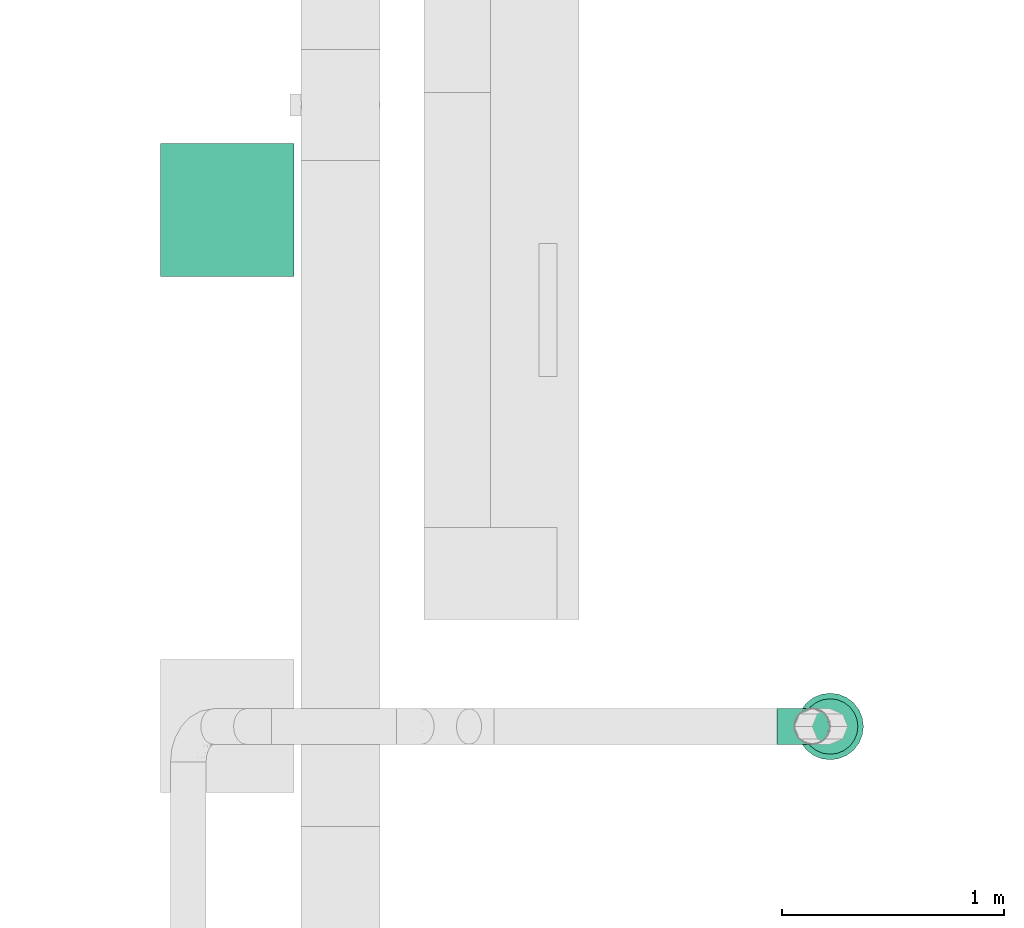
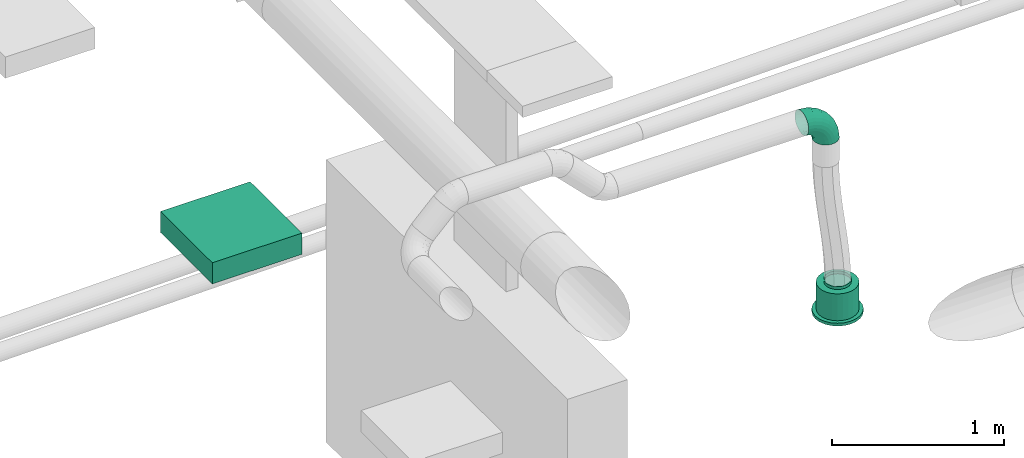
# One storey, part 78 of 374: 1 distribution element, 1 flow fitting, 1 flow terminal.
"""IFC2X3 building model written with IfcOpenShell, lengths in metres."""

import ifcopenshell
import ifcopenshell.guid

model = None  # the IFC model being written
_history = None  # IfcOwnerHistory: only IFC2X3 demands one
_inside = {}  # id of a spatial element -> (the spatial element, [elements in it])
_under = {}  # id of a project, library or spatial element -> (it, [spatial elements below it])
_declared = {}  # id of a project -> (the project, [libraries it declares])
_typed = {}  # id of a type object -> (the type object, [elements of that type])
_made_of = {}  # id of a material, layer set ... -> (it, [elements and type objects made of it])


def new_model(schema):
    """Start an empty IFC model of exactly this schema.

    Asked for "IFC4X3", IfcOpenShell would pick the latest addendum, in which some entities
    have other attributes; the version numbers below select the first issue.
    IFC2X3 requires an IfcOwnerHistory on every rooted entity: one is made here for all.
    """
    global model, _history
    if schema == "IFC4X3":
        model = ifcopenshell.file(schema_version=(4, 3, 0, 0))
    else:
        model = ifcopenshell.file(schema=schema)
    _inside.clear()
    _under.clear()
    _declared.clear()
    _typed.clear()
    _made_of.clear()
    _history = None
    if model.schema == "IFC2X3":
        org = make("IfcOrganization", Name="unknown")
        user = make(
            "IfcPersonAndOrganization",
            ThePerson=make("IfcPerson", FamilyName="unknown"),
            TheOrganization=org,
        )
        app = make(
            "IfcApplication",
            ApplicationDeveloper=org,
            Version="unknown",
            ApplicationFullName="unknown",
            ApplicationIdentifier="unknown",
        )
        _history = make(
            "IfcOwnerHistory",
            OwningUser=user,
            OwningApplication=app,
            ChangeAction="ADDED",
            CreationDate=0,
        )
    return model


def make(cls, **values):
    """One entity of the class cls with the attributes given. An attribute that is None is left unset."""
    return model.create_entity(
        cls, **{name: value for name, value in values.items() if value is not None}
    )


def rooted(cls, **values):
    """An entity with a GlobalId (a new one), such as an element, a storey or a relation."""
    return make(cls, GlobalId=ifcopenshell.guid.new(), OwnerHistory=_history, **values)


def si_unit(unit_type, name, prefix=None):
    """IfcSIUnit, for example si_unit("LENGTHUNIT", "METRE", prefix="MILLI")."""
    return make("IfcSIUnit", UnitType=unit_type, Prefix=prefix, Name=name)


def assignment(units):
    """IfcUnitAssignment: the units of a project."""
    return None if units is None else make("IfcUnitAssignment", Units=units)


def point(xyz):
    """IfcCartesianPoint."""
    return None if xyz is None else make("IfcCartesianPoint", Coordinates=xyz)


def direction(xyz):
    """IfcDirection."""
    return None if xyz is None else make("IfcDirection", DirectionRatios=xyz)


def frame(location, z_axis=None, x_axis=None):
    """IfcAxis2Placement3D, a coordinate frame: its origin and axes. An axis left out is left unset."""
    return make(
        "IfcAxis2Placement3D",
        Location=point(location),
        Axis=direction(z_axis),
        RefDirection=direction(x_axis),
    )


def frame_2d(location, x_axis=None):
    """IfcAxis2Placement2D, a coordinate frame in the plane: its origin and x axis."""
    return make(
        "IfcAxis2Placement2D", Location=point(location), RefDirection=direction(x_axis)
    )


def origin():
    """The frame at (0, 0, 0) with its axes left unset."""
    return frame((0.0, 0.0, 0.0))


def place(relative_to, where):
    """IfcLocalPlacement: puts the frame where relative to a parent placement (None: the world)."""
    return make(
        "IfcLocalPlacement", PlacementRelTo=relative_to, RelativePlacement=where
    )


def context(
    kind, dimensions, precision=None, world=None, true_north=None, identifier=None
):
    """IfcGeometricRepresentationContext, for example the 3D "Model" context."""
    return make(
        "IfcGeometricRepresentationContext",
        ContextIdentifier=identifier,
        ContextType=kind,
        CoordinateSpaceDimension=dimensions,
        Precision=precision,
        WorldCoordinateSystem=world,
        TrueNorth=true_north,
    )


def subcontext(parent, identifier, kind, view, scale=None):
    """IfcGeometricRepresentationSubContext, for example "Body" below "Model"."""
    return make(
        "IfcGeometricRepresentationSubContext",
        ContextIdentifier=identifier,
        ContextType=kind,
        ParentContext=parent,
        TargetScale=scale,
        TargetView=view,
    )


def project(units=None, contexts=None):
    """IfcProject with its units and contexts."""
    return rooted(
        "IfcProject",
        Name="project",
        RepresentationContexts=contexts,
        UnitsInContext=assignment(units),
    )


def spatial(cls, under=None, at=None, **own):
    """A site, building, storey or space (cls), placed at a placement, below another one or the project."""
    s = rooted(cls, ObjectPlacement=at, **own)
    if under is not None:
        _under.setdefault(under.id(), (under, []))[1].append(s)
    return s


def profile(cls, at=None, kind="AREA", **sizes):
    """A parametric profile (cls). Its sizes go by their IFC names, for example OverallWidth=200.0."""
    return make(cls, ProfileType=kind, Position=at, **sizes)


def rectangle(**sizes):
    """IfcRectangleProfileDef."""
    return profile("IfcRectangleProfileDef", **sizes)


def extrude(swept, where, along, depth):
    """IfcExtrudedAreaSolid: the profile swept, set in the frame where, extruded along a direction by depth."""
    return make(
        "IfcExtrudedAreaSolid",
        SweptArea=swept,
        Position=where,
        ExtrudedDirection=direction(along),
        Depth=depth,
    )


def faces_of(points, faces, orient=None, outer=None):
    """IfcFace entities. A face is a list of loops; a loop is a list of indices into points, from 0.

    orient and outer hold one flag for each loop. By default every Orientation is true, the
    first loop of a face is its IfcFaceOuterBound and the others are IfcFaceBound.
    """
    made = []
    for i, loops in enumerate(faces):
        bounds = []
        for j, loop in enumerate(loops):
            is_outer = j == 0 if outer is None else outer[i][j]
            bounds.append(
                make(
                    "IfcFaceOuterBound" if is_outer else "IfcFaceBound",
                    Bound=make("IfcPolyLoop", Polygon=[points[k] for k in loop]),
                    Orientation=True if orient is None else orient[i][j],
                )
            )
        made.append(make("IfcFace", Bounds=bounds))
    return made


def open_shell(faces, orient=None, outer=None):
    """The faces of one IfcOpenShell. surface_model builds it on its shared points."""
    return ("IfcOpenShell", faces, orient, outer)


def surface_model(cls, points, shells):
    """IfcFaceBasedSurfaceModel or IfcShellBasedSurfaceModel (cls): surfaces that need not close."""
    shared = [point(p) for p in points]
    made = [make(c, CfsFaces=faces_of(shared, fs, o, b)) for c, fs, o, b in shells]
    if cls == "IfcFaceBasedSurfaceModel":
        return make(cls, FbsmFaces=made)
    return make(cls, SbsmBoundary=made)


def shape(context_of_items, identifier, shape_type, items):
    """IfcShapeRepresentation: the items that make up one representation, for example the "Body"."""
    return make(
        "IfcShapeRepresentation",
        ContextOfItems=context_of_items,
        RepresentationIdentifier=identifier,
        RepresentationType=shape_type,
        Items=items,
    )


def source(mapping_origin, context_of_items, identifier, shape_type, items):
    """IfcRepresentationMap: a shape defined once, which mapped items show again and again."""
    return make(
        "IfcRepresentationMap",
        MappingOrigin=mapping_origin,
        MappedRepresentation=shape(context_of_items, identifier, shape_type, items),
    )


def transform(
    local_origin,
    x_axis=None,
    y_axis=None,
    z_axis=None,
    scale=None,
    scale2=None,
    scale3=None,
    uniform=True,
):
    """IfcCartesianTransformationOperator3D, or its non-uniform kind. x_axis, y_axis, z_axis: its Axis1, 2, 3."""
    if uniform:
        return make(
            "IfcCartesianTransformationOperator3D",
            Axis1=direction(x_axis),
            Axis2=direction(y_axis),
            LocalOrigin=point(local_origin),
            Scale=scale,
            Axis3=direction(z_axis),
        )
    return make(
        "IfcCartesianTransformationOperator3DnonUniform",
        Axis1=direction(x_axis),
        Axis2=direction(y_axis),
        LocalOrigin=point(local_origin),
        Scale=scale,
        Axis3=direction(z_axis),
        Scale2=scale2,
        Scale3=scale3,
    )


def mapped(mapping_source, mapping_target):
    """IfcMappedItem: shows the shape of a source again, moved by a transform."""
    return make(
        "IfcMappedItem", MappingSource=mapping_source, MappingTarget=mapping_target
    )


def made_of(thing, what):
    """Note that an element or type object is made of a material, layer set ...; save() writes the relation."""
    if what is not None:
        _made_of.setdefault(what.id(), (what, []))[1].append(thing)
    return thing


def element(
    cls,
    number,
    at=None,
    inside=None,
    cuts=None,
    type_object=None,
    material=None,
    context=None,
    identifier="Body",
    shape_type=None,
    held_by="IfcProductDefinitionShape",
    body=None,
    shapes=None,
    **own,
):
    """One element of the class cls, such as IfcWall. Its Tag is "e" and its number.

    at: its placement. inside: the storey or other place that contains it. cuts: it is an
    opening in that element (IfcRelVoidsElement). A single representation is given by context,
    identifier, shape_type and body (its items); several are given by shapes. held_by: the class
    of the entity that holds the representations. save() writes the other relations.
    """
    e = rooted(cls, Tag="e%d" % number, ObjectPlacement=at, **own)
    if body is not None:
        shapes = [shape(context, identifier, shape_type, body)]
    if shapes is not None:
        e.Representation = make(held_by, Representations=shapes)
    if inside is not None:
        _inside.setdefault(inside.id(), (inside, []))[1].append(e)
    if cuts is not None:
        rooted(
            "IfcRelVoidsElement", RelatingBuildingElement=cuts, RelatedOpeningElement=e
        )
    if type_object is not None:
        _typed.setdefault(type_object.id(), (type_object, []))[1].append(e)
    return made_of(e, material)


def aggregate(whole, parts):
    """IfcRelAggregates: a whole, such as a stair, and the parts it consists of."""
    return rooted("IfcRelAggregates", RelatingObject=whole, RelatedObjects=parts)


def save(model, path):
    """Write the relations noted so far, then the file.

    IfcRelAggregates (storeys below a building ...), IfcRelContainedInSpatialStructure (elements
    in a storey), IfcRelDefinesByType, IfcRelAssociatesMaterial and IfcRelDeclares: one each for
    every whole, place, type object, material and project.
    """
    for whole, parts in _under.values():
        aggregate(whole, parts)
    for where, things in _inside.values():
        rooted(
            "IfcRelContainedInSpatialStructure",
            RelatedElements=things,
            RelatingStructure=where,
        )
    for kind, things in _typed.values():
        rooted("IfcRelDefinesByType", RelatedObjects=things, RelatingType=kind)
    for what, things in _made_of.values():
        rooted("IfcRelAssociatesMaterial", RelatedObjects=things, RelatingMaterial=what)
    for by, libraries in _declared.values():
        rooted("IfcRelDeclares", RelatingContext=by, RelatedDefinitions=libraries)
    model.write(path)


model = new_model("IFC2X3")

# Units and contexts
model_context = context("Model", 3, precision=1e-05, world=origin(), true_north=direction((-0.4480736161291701, 0.8939966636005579)))
body_context = subcontext(model_context, "Body", "Model", "MODEL_VIEW")
ifc_project = project(units=[si_unit("LENGTHUNIT", "METRE"), si_unit("AREAUNIT", "SQUARE_METRE"), si_unit("VOLUMEUNIT", "CUBIC_METRE"), si_unit("PLANEANGLEUNIT", "RADIAN"), si_unit("THERMODYNAMICTEMPERATUREUNIT", "KELVIN"), si_unit("MASSUNIT", "GRAM", prefix="KILO"), si_unit("TIMEUNIT", "SECOND")], contexts=[model_context])

# Site, building, storey
site_placement = place(None, origin())
site = spatial("IfcSite", under=ifc_project, at=site_placement, Name="Site 1", CompositionType="ELEMENT")
building_placement = place(site_placement, origin())
building = spatial("IfcBuilding", under=site, at=building_placement, Name="Undefined", CompositionType="ELEMENT")
storey_placement = place(building_placement, origin())
storey = spatial("IfcBuildingStorey", under=building, at=storey_placement, Name="Rez de chauss\x8ee", CompositionType="ELEMENT", Elevation=0.0)

# Flow fitting
shared_shape_1 = source(origin(), body_context, "Body", "SurfaceModel", [
    surface_model("IfcFaceBasedSurfaceModel", [(0.06265257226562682, -8.8817842e-16, 0.0), (0.062296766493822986, 0.02088115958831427, -7.105427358e-15), (0.0003558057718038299, 0.020881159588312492, 7.105427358e-15), (0.0, 0.0, 0.0), (-0.059474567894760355, 0.022956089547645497, -0.015896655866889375), (-0.06051773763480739, 0.002098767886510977, -0.01607928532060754), (-0.11311701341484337, 0.02696454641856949, -0.04660663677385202), (-0.11477645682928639, 0.006153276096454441, -0.04714207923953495), (-0.15691588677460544, 0.0326333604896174, -0.09003710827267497), (-0.15907851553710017, 0.01188721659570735, -0.09107150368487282), (-0.18788636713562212, 0.03957621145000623, -0.14322835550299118), (-0.1904048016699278, 0.01890983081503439, -0.14487384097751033), (-0.2039178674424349, 0.04731995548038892, -0.20255548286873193), (-0.20662048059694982, 0.026742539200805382, -0.20488255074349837), (0.061253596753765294, 0.04103889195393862, -0.0053597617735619), (0.0013989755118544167, 0.04103889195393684, -0.005359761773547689), (-0.05641614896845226, 0.04304393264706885, -0.02072097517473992), (-0.10825177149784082, 0.04691737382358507, -0.050396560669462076), (-0.15057538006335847, 0.05239524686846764, -0.09236417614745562), (-0.18050269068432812, 0.05910424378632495, -0.14376379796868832), (-0.19599420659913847, 0.06658715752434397, -0.20109262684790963), (0.05959415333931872, 0.05909948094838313, -0.01571402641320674), (0.003058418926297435, 0.05909948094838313, -0.01571402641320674), (-0.05155090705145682, 0.06099334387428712, -0.030223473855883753), (-0.10051228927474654, 0.06465200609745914, -0.058253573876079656), (-0.1404890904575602, 0.0698261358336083, -0.09789412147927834), (-0.16875695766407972, 0.0761631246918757, -0.14644367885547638), (-0.18338948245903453, 0.08323111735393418, -0.2005936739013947), (0.057431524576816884, 0.07383212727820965, -0.030357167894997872), (0.005221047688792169, 0.07383212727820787, -0.03035716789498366), (-0.0452104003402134, 0.07558110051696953, -0.04375657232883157), (-0.09042599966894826, 0.07895985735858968, -0.06964223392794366), (-0.12734438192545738, 0.08373814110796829, -0.10625008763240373), (-0.15344962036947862, 0.08959031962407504, -0.15108536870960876), (-0.16696268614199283, 0.0961175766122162, -0.20109262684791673), (0.054913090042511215, 0.0842328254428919, -0.048291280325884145), (0.007739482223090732, 0.08423282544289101, -0.04829128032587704), (-0.037826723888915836, 0.08581307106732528, -0.06039801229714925), (-0.07868026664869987, 0.08886587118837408, -0.08378642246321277), (-0.11203704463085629, 0.09318318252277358, -0.11686262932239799), (-0.13562384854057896, 0.09847078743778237, -0.1573725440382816), (-0.14783327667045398, 0.10436834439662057, -0.20255548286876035), (0.05221047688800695, 0.0895927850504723, -0.06829418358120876), (0.010442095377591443, 0.08959278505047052, -0.06829418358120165), (-0.029903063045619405, 0.09099196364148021, -0.07901370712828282), (-0.06607554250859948, 0.09369496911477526, -0.0997222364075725), (-0.0956102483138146, 0.0975175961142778, -0.12900851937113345), (-0.11649443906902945, 0.10219933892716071, -0.16487674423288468), (-0.12730489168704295, 0.1074211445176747, -0.2048825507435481), (0.04950786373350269, 0.08954673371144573, -0.08900271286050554), (0.013144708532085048, 0.08954673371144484, -0.08900271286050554), (-0.02197940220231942, 0.09076484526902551, -0.09833502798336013), (-0.05347081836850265, 0.09311805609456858, -0.11636367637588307), (-0.0791834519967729, 0.09644599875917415, -0.14186003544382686), (-0.09736502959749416, 0.10052187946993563, -0.17308657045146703), (-0.10677650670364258, 0.1050679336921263, -0.20791524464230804), (0.04698942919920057, 0.08409780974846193, -0.10900561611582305), (0.015663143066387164, 0.08409780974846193, -0.10900561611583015), (-0.014595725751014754, 0.08514719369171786, -0.11704525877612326), (-0.0417250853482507, 0.0871744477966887, -0.13257665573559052), (-0.06387611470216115, 0.09004141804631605, -0.15454136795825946), (-0.07953925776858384, 0.09355272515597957, -0.1814425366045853), (-0.08764709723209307, 0.09746907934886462, -0.21144689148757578), (0.04482680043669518, 0.0736173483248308, -0.12693972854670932), (0.017825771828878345, 0.0736173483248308, -0.12693972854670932), (-0.008255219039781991, 0.07452184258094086, -0.13386932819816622), (-0.03163879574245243, 0.0762691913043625, -0.14725628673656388), (-0.050731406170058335, 0.07874031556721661, -0.1661883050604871), (-0.06423192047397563, 0.08176681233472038, -0.18937519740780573), (-0.07122030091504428, 0.08514243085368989, -0.21523681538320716), (0.04316735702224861, 0.058819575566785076, -0.14158287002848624), (0.019485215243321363, 0.058819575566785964, -0.14158287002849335), (-0.0033899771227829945, 0.05961289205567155, -0.14766070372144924), (-0.02389931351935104, 0.06114546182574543, -0.15940217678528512), (-0.04064511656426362, 0.06331284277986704, -0.17600712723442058), (-0.052486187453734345, 0.06596733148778, -0.19634395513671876), (-0.05861557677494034, 0.06892802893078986, -0.2190267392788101), (0.04212418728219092, 0.040712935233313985, -0.15193713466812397), (0.020528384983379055, 0.040712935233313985, -0.15193713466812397), (-0.0003315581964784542, 0.041436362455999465, -0.15747952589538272), (-0.019034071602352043, 0.04283391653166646, -0.16818660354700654), (-0.03430460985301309, 0.04481035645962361, -0.1833286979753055), (-0.04510251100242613, 0.047230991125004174, -0.20187390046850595), (-0.05069191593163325, 0.04993085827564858, -0.22255838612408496), (0.04176838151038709, 0.02053136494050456, -0.15729689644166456), (0.020884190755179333, 0.02053136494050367, -0.15729689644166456), (0.0007116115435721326, 0.021230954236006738, -0.16265665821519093), (-0.017374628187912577, 0.022582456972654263, -0.17301092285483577), (-0.03214198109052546, 0.024493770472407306, -0.1876540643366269), (-0.042584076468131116, 0.026834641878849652, -0.20558817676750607), (-0.04798930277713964, 0.02944554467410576, -0.22559108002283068), (0.04212418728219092, -0.0003497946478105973, -0.15729689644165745), (0.020528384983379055, -0.0003497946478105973, -0.15729689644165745), (-0.0003315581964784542, 0.00037363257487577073, -0.1628392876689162), (-0.019034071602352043, 0.0017711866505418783, -0.17354636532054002), (-0.03430460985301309, 0.0037476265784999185, -0.18868845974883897), (-0.04510251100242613, 0.00616826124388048, -0.20723366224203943), (-0.05069191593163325, 0.008868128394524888, -0.22791814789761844), (0.04316735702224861, -0.020507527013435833, -0.15193713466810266), (0.019485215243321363, -0.020507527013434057, -0.15193713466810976), (-0.0033899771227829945, -0.019714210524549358, -0.15801496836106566), (-0.02389931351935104, -0.01818164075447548, -0.16975644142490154), (-0.04064511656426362, -0.01601425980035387, -0.186361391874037), (-0.052486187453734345, -0.013359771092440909, -0.20669821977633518), (-0.05861557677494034, -0.010399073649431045, -0.22938100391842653), (0.04482680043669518, -0.03856811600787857, -0.1415828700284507), (0.017825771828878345, -0.03856811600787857, -0.1415828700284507), (-0.008255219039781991, -0.03766362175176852, -0.1485124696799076), (-0.03163879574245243, -0.03591627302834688, -0.16189942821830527), (-0.050731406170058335, -0.03344514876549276, -0.1808314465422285), (-0.06423192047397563, -0.030418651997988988, -0.20401833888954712), (-0.07122030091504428, -0.027043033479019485, -0.22987995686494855), (0.04698942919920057, -0.05330076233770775, -0.12693972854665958), (0.015663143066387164, -0.05330076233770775, -0.12693972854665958), (-0.014595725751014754, -0.05225137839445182, -0.1349793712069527), (-0.0417250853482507, -0.05022412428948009, -0.15051076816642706), (-0.06387611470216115, -0.047357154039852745, -0.172475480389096), (-0.07953925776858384, -0.043845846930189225, -0.19937664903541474), (-0.08764709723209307, -0.03992949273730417, -0.2293810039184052), (0.04950786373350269, -0.06370146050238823, -0.10900561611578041), (0.013144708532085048, -0.06370146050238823, -0.10900561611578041), (-0.02197940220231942, -0.06248334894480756, -0.11833793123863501), (-0.05347081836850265, -0.06013013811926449, -0.13636657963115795), (-0.0791834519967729, -0.05680219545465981, -0.16186293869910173), (-0.09736502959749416, -0.05272631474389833, -0.1930894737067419), (-0.10677650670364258, -0.04818026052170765, -0.2279181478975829), (0.05221047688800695, -0.06906142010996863, -0.08900271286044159), (0.010442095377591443, -0.06906142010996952, -0.08900271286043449), (-0.029903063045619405, -0.06766224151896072, -0.09972223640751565), (-0.06607554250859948, -0.06495923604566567, -0.12043076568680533), (-0.0956102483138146, -0.06113660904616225, -0.14971704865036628), (-0.11649443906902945, -0.05645486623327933, -0.1855852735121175), (-0.12730489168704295, -0.05123306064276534, -0.22559108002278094), (0.054913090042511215, -0.06901536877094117, -0.06829418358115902), (0.007739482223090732, -0.06901536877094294, -0.06829418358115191), (-0.037826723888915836, -0.06743512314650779, -0.08040091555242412), (-0.07868026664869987, -0.06438232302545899, -0.10378932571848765), (-0.11203704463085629, -0.06006501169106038, -0.13686553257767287), (-0.13562384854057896, -0.0547774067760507, -0.17737544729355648), (-0.14783327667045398, -0.04887984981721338, -0.22255838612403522), (0.057431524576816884, -0.06356644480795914, -0.0482912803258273), (0.005221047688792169, -0.06356644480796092, -0.04829128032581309), (-0.0452104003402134, -0.061817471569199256, -0.0616906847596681), (-0.09042599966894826, -0.05843871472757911, -0.0875763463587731), (-0.12734438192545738, -0.05366043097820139, -0.12418420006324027), (-0.15344962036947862, -0.04780825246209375, -0.1690194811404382), (-0.16696268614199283, -0.041280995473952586, -0.21902673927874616), (0.05959415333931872, -0.05308598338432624, -0.030357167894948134), (0.003058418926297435, -0.05308598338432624, -0.030357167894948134), (-0.05155090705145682, -0.05119212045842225, -0.04486661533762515), (-0.10051228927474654, -0.04753345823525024, -0.07289671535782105), (-0.1404890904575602, -0.04235932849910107, -0.11253726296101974), (-0.16875695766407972, -0.03602233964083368, -0.16108682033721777), (-0.18338948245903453, -0.02895434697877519, -0.2152368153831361), (0.061253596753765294, -0.03828821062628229, -0.015714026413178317), (0.0013989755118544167, -0.03828821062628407, -0.015714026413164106), (-0.05641614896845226, -0.03628316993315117, -0.031075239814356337), (-0.10825177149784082, -0.03240972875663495, -0.06075082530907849), (-0.15057538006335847, -0.026931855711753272, -0.10271844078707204), (-0.18050269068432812, -0.02022285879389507, -0.15411806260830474), (-0.19599420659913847, -0.012739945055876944, -0.21144689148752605), (0.062296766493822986, -0.020181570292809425, -0.005359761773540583), (0.0003558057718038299, -0.020181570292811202, -0.0053597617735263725), (-0.059474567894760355, -0.018106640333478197, -0.021256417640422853), (-0.11311701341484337, -0.014098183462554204, -0.051966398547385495), (-0.15691588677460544, -0.00842936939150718, -0.09539687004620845), (-0.18788636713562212, -0.0014865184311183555, -0.14858811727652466), (-0.2039178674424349, 0.006257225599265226, -0.2079152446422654)], [open_shell([[[0, 1, 2, 3]], [[3, 2, 4, 5]], [[5, 4, 6, 7]], [[7, 6, 8, 9]], [[9, 8, 10, 11]], [[11, 10, 12, 13]], [[1, 14, 15, 2]], [[2, 15, 16, 4]], [[4, 16, 17, 6]], [[6, 17, 18, 8]], [[8, 18, 19, 10]], [[10, 19, 20, 12]], [[14, 21, 22, 15]], [[15, 22, 23, 16]], [[16, 23, 24, 17]], [[17, 24, 25, 18]], [[18, 25, 26, 19]], [[19, 26, 27, 20]], [[21, 28, 29, 22]], [[22, 29, 30, 23]], [[23, 30, 31, 24]], [[24, 31, 32, 25]], [[25, 32, 33, 26]], [[26, 33, 34, 27]], [[28, 35, 36, 29]], [[29, 36, 37, 30]], [[30, 37, 38, 31]], [[31, 38, 39, 32]], [[32, 39, 40, 33]], [[33, 40, 41, 34]], [[35, 42, 43, 36]], [[36, 43, 44, 37]], [[37, 44, 45, 38]], [[38, 45, 46, 39]], [[39, 46, 47, 40]], [[40, 47, 48, 41]], [[42, 49, 50, 43]], [[43, 50, 51, 44]], [[44, 51, 52, 45]], [[45, 52, 53, 46]], [[46, 53, 54, 47]], [[47, 54, 55, 48]], [[49, 56, 57, 50]], [[50, 57, 58, 51]], [[51, 58, 59, 52]], [[52, 59, 60, 53]], [[53, 60, 61, 54]], [[54, 61, 62, 55]], [[56, 63, 64, 57]], [[57, 64, 65, 58]], [[58, 65, 66, 59]], [[59, 66, 67, 60]], [[60, 67, 68, 61]], [[61, 68, 69, 62]], [[63, 70, 71, 64]], [[64, 71, 72, 65]], [[65, 72, 73, 66]], [[66, 73, 74, 67]], [[67, 74, 75, 68]], [[68, 75, 76, 69]], [[70, 77, 78, 71]], [[71, 78, 79, 72]], [[72, 79, 80, 73]], [[73, 80, 81, 74]], [[74, 81, 82, 75]], [[75, 82, 83, 76]], [[77, 84, 85, 78]], [[78, 85, 86, 79]], [[79, 86, 87, 80]], [[80, 87, 88, 81]], [[81, 88, 89, 82]], [[82, 89, 90, 83]], [[84, 91, 92, 85]], [[85, 92, 93, 86]], [[86, 93, 94, 87]], [[87, 94, 95, 88]], [[88, 95, 96, 89]], [[89, 96, 97, 90]], [[91, 98, 99, 92]], [[92, 99, 100, 93]], [[93, 100, 101, 94]], [[94, 101, 102, 95]], [[95, 102, 103, 96]], [[96, 103, 104, 97]], [[98, 105, 106, 99]], [[99, 106, 107, 100]], [[100, 107, 108, 101]], [[101, 108, 109, 102]], [[102, 109, 110, 103]], [[103, 110, 111, 104]], [[105, 112, 113, 106]], [[106, 113, 114, 107]], [[107, 114, 115, 108]], [[108, 115, 116, 109]], [[109, 116, 117, 110]], [[110, 117, 118, 111]], [[112, 119, 120, 113]], [[113, 120, 121, 114]], [[114, 121, 122, 115]], [[115, 122, 123, 116]], [[116, 123, 124, 117]], [[117, 124, 125, 118]], [[119, 126, 127, 120]], [[120, 127, 128, 121]], [[121, 128, 129, 122]], [[122, 129, 130, 123]], [[123, 130, 131, 124]], [[124, 131, 132, 125]], [[126, 133, 134, 127]], [[127, 134, 135, 128]], [[128, 135, 136, 129]], [[129, 136, 137, 130]], [[130, 137, 138, 131]], [[131, 138, 139, 132]], [[133, 140, 141, 134]], [[134, 141, 142, 135]], [[135, 142, 143, 136]], [[136, 143, 144, 137]], [[137, 144, 145, 138]], [[138, 145, 146, 139]], [[140, 147, 148, 141]], [[141, 148, 149, 142]], [[142, 149, 150, 143]], [[143, 150, 151, 144]], [[144, 151, 152, 145]], [[145, 152, 153, 146]], [[147, 154, 155, 148]], [[148, 155, 156, 149]], [[149, 156, 157, 150]], [[150, 157, 158, 151]], [[151, 158, 159, 152]], [[152, 159, 160, 153]], [[154, 161, 162, 155]], [[155, 162, 163, 156]], [[156, 163, 164, 157]], [[157, 164, 165, 158]], [[158, 165, 166, 159]], [[159, 166, 167, 160]], [[161, 0, 3, 162]], [[162, 3, 5, 163]], [[163, 5, 7, 164]], [[164, 7, 9, 165]], [[165, 9, 11, 166]], [[166, 11, 13, 167]]])]),
])
flow_fitting_placement = place(storey_placement, origin())
element("IfcFlowFitting", 1, at=flow_fitting_placement, inside=storey, Name="Coude", ObjectType="Coude", context=body_context, shape_type="MappedRepresentation", body=[
    mapped(shared_shape_1, transform((48.133030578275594, 10.385632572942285, 3.7021165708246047), x_axis=(0.130526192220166, 0.0, -0.9914448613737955), y_axis=(-0.12832103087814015, 0.9915887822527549, -0.016893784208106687), z_axis=(0.9831056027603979, 0.1294283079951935, 0.12942830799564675))),
])

# Flow terminal
shared_shape_2 = source(origin(), body_context, "Body", "SurfaceModel", [
    surface_model("IfcFaceBasedSurfaceModel", [(0.0, 0.0, 0.0), (0.03915785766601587, 0.0, 0.0), (0.03915785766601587, 0.020000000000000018, 0.0), (3.552713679e-15, 0.020000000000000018, 0.0), (0.07698144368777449, 0.0, -0.010134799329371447), (0.07698144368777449, 0.020000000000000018, -0.010134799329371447), (0.11089314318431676, 0.0, -0.02971372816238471), (0.11089314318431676, 0.020000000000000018, -0.02971372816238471), (0.13858192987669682, 0.0, -0.05740251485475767), (0.13858192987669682, 0.020000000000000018, -0.05740251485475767), (0.15816085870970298, 0.0, -0.09131421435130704), (0.15816085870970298, 0.020000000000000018, -0.09131421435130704), (0.16829565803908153, 0.0, -0.12913780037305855), (0.16829565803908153, 0.020000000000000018, -0.12913780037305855), (0.16829565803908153, 0.0, -0.16829565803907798), (0.16829565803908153, 0.020000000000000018, -0.16829565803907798), (0.15816085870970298, 0.0, -0.20611924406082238), (0.15816085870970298, 0.020000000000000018, -0.20611924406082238), (0.13858192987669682, 0.0, -0.24003094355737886), (0.13858192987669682, 0.020000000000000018, -0.24003094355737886), (0.11089314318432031, 0.0, -0.2677197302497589), (0.11089314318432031, 0.020000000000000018, -0.2677197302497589), (0.07698144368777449, 0.0, -0.2872986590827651), (0.07698144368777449, 0.020000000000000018, -0.2872986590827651), (0.039157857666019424, 0.0, -0.29743345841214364), (0.039157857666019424, 0.020000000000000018, -0.29743345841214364), (3.552713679e-15, 0.0, -0.29743345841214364), (3.552713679e-15, 0.020000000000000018, -0.29743345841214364), (-0.03782358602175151, 0.0, -0.2872986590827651), (-0.03782358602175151, 0.020000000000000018, -0.2872986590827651), (-0.07173528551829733, 0.0, -0.2677197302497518), (-0.07173528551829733, 0.020000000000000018, -0.2677197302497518), (-0.0994240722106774, 0.0, -0.24003094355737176), (-0.0994240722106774, 0.020000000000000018, -0.24003094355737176), (-0.11900300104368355, 0.0, -0.2061192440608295), (-0.11900300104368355, 0.020000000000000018, -0.2061192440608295), (-0.1291378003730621, 0.0, -0.16829565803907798), (-0.1291378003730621, 0.020000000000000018, -0.16829565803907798), (-0.1291378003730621, 0.0, -0.12913780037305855), (-0.1291378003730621, 0.020000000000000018, -0.12913780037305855), (-0.11900300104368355, 0.0, -0.09131421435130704), (-0.11900300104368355, 0.020000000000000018, -0.09131421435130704), (-0.0994240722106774, 0.0, -0.05740251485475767), (-0.0994240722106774, 0.020000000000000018, -0.05740251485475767), (-0.07173528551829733, 0.0, -0.029713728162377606), (-0.07173528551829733, 0.020000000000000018, -0.029713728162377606), (-0.03782358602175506, 0.0, -0.010134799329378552), (-0.03782358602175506, 0.020000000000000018, -0.010134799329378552), (0.019578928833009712, 0.0, -0.14871672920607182), (0.019578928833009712, 0.020000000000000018, -0.14871672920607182), (0.003263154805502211, 0.020000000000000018, -0.02478612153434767), (0.035894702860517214, 0.020000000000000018, -0.02478612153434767), (0.035894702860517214, 0.20999999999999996, -0.02478612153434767), (0.003263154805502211, 0.20999999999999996, -0.02478612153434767), (0.06741435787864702, 0.020000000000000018, -0.033231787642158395), (0.06741435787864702, 0.20999999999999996, -0.033231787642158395), (0.0956741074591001, 0.020000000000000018, -0.04954756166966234), (0.0956741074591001, 0.20999999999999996, -0.04954756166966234), (0.11874809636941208, 0.020000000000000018, -0.07262155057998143), (0.11874809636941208, 0.20999999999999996, -0.07262155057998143), (0.13506387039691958, 0.020000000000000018, -0.10088130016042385), (0.13506387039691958, 0.20999999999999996, -0.10088130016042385), (0.1435095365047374, 0.020000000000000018, -0.13240095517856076), (0.1435095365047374, 0.20999999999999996, -0.13240095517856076), (0.1435095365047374, 0.020000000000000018, -0.16503250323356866), (0.1435095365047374, 0.20999999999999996, -0.16503250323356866), (0.13506387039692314, 0.020000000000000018, -0.19655215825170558), (0.13506387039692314, 0.20999999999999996, -0.19655215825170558), (0.11874809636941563, 0.020000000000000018, -0.2248119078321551), (0.11874809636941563, 0.20999999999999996, -0.2248119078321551), (0.09567410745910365, 0.020000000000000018, -0.24788589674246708), (0.09567410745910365, 0.20999999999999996, -0.24788589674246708), (0.06741435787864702, 0.020000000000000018, -0.26420167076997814), (0.06741435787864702, 0.20999999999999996, -0.26420167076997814), (0.035894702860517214, 0.020000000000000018, -0.27264733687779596), (0.035894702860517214, 0.20999999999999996, -0.27264733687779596), (0.0032631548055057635, 0.020000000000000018, -0.27264733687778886), (0.0032631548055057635, 0.20999999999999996, -0.27264733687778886), (-0.028256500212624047, 0.020000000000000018, -0.26420167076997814), (-0.028256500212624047, 0.20999999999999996, -0.26420167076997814), (-0.05651624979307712, 0.020000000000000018, -0.2478858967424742), (-0.05651624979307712, 0.20999999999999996, -0.2478858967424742), (-0.07959023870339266, 0.020000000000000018, -0.2248119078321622), (-0.07959023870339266, 0.20999999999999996, -0.2248119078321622), (-0.09590601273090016, 0.020000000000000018, -0.19655215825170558), (-0.09590601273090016, 0.20999999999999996, -0.19655215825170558), (-0.10435167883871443, 0.020000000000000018, -0.16503250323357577), (-0.10435167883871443, 0.20999999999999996, -0.16503250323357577), (-0.10435167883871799, 0.020000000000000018, -0.13240095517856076), (-0.10435167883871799, 0.20999999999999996, -0.13240095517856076), (-0.09590601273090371, 0.020000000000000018, -0.10088130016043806), (-0.09590601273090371, 0.20999999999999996, -0.10088130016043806), (-0.07959023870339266, 0.020000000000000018, -0.07262155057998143), (-0.07959023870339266, 0.20999999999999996, -0.07262155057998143), (-0.056516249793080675, 0.020000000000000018, -0.04954756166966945), (-0.056516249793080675, 0.20999999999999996, -0.04954756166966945), (-0.028256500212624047, 0.020000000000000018, -0.033231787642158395), (-0.028256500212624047, 0.20999999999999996, -0.033231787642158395), (0.019578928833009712, 0.20999999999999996, -0.14871672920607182), (0.009136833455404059, 0.20999999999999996, -0.06940114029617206), (0.030021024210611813, 0.20999999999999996, -0.06940114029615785), (0.030021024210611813, 0.22999999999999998, -0.06940114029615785), (0.009136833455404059, 0.22999999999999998, -0.06940114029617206), (0.05019360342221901, 0.20999999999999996, -0.07480636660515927), (0.05019360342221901, 0.22999999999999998, -0.07480636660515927), (0.06827984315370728, 0.20999999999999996, -0.08524846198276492), (0.06827984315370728, 0.22999999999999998, -0.08524846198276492), (0.0830471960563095, 0.20999999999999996, -0.10001581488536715), (0.0830471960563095, 0.22999999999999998, -0.10001581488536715), (0.0934892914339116, 0.20999999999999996, -0.11810205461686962), (0.0934892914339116, 0.22999999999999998, -0.11810205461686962), (0.09889451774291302, 0.20999999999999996, -0.13827463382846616), (0.09889451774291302, 0.22999999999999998, -0.13827463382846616), (0.09889451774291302, 0.20999999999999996, -0.15915882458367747), (0.09889451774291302, 0.22999999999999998, -0.15915882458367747), (0.09348929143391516, 0.20999999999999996, -0.179331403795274), (0.09348929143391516, 0.22999999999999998, -0.179331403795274), (0.0830471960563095, 0.20999999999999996, -0.19741764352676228), (0.0830471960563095, 0.22999999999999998, -0.19741764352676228), (0.06827984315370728, 0.20999999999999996, -0.2121849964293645), (0.06827984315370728, 0.22999999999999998, -0.2121849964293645), (0.05019360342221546, 0.20999999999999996, -0.22262709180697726), (0.05019360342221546, 0.22999999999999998, -0.22262709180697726), (0.030021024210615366, 0.20999999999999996, -0.22803231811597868), (0.030021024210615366, 0.22999999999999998, -0.22803231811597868), (0.009136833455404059, 0.20999999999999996, -0.22803231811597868), (0.009136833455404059, 0.22999999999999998, -0.22803231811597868), (-0.011035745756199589, 0.20999999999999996, -0.22262709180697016), (-0.011035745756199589, 0.22999999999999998, -0.22262709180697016), (-0.0291219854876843, 0.20999999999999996, -0.2121849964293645), (-0.0291219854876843, 0.22999999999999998, -0.2121849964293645), (-0.043889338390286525, 0.20999999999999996, -0.19741764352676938), (-0.043889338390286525, 0.22999999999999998, -0.19741764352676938), (-0.05433143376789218, 0.20999999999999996, -0.17933140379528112), (-0.05433143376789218, 0.22999999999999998, -0.17933140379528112), (-0.05973666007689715, 0.20999999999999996, -0.15915882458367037), (-0.05973666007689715, 0.22999999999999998, -0.15915882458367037), (-0.0597366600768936, 0.20999999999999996, -0.13827463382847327), (-0.0597366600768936, 0.22999999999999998, -0.13827463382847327), (-0.05433143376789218, 0.20999999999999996, -0.11810205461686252), (-0.05433143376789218, 0.22999999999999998, -0.11810205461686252), (-0.043889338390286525, 0.20999999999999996, -0.10001581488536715), (-0.043889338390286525, 0.22999999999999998, -0.10001581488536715), (-0.02912198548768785, 0.20999999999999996, -0.08524846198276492), (-0.02912198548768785, 0.22999999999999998, -0.08524846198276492), (-0.011035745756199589, 0.20999999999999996, -0.07480636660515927), (-0.011035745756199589, 0.22999999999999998, -0.07480636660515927)], [open_shell([[[0, 1, 2, 3]], [[1, 4, 5, 2]], [[4, 6, 7, 5]], [[6, 8, 9, 7]], [[8, 10, 11, 9]], [[10, 12, 13, 11]], [[12, 14, 15, 13]], [[14, 16, 17, 15]], [[16, 18, 19, 17]], [[18, 20, 21, 19]], [[20, 22, 23, 21]], [[22, 24, 25, 23]], [[24, 26, 27, 25]], [[26, 28, 29, 27]], [[28, 30, 31, 29]], [[30, 32, 33, 31]], [[32, 34, 35, 33]], [[34, 36, 37, 35]], [[36, 38, 39, 37]], [[38, 40, 41, 39]], [[40, 42, 43, 41]], [[42, 44, 45, 43]], [[44, 46, 47, 45]], [[46, 0, 3, 47]], [[48, 1, 0]], [[48, 4, 1]], [[48, 6, 4]], [[48, 8, 6]], [[48, 10, 8]], [[48, 12, 10]], [[48, 14, 12]], [[48, 16, 14]], [[48, 18, 16]], [[48, 20, 18]], [[48, 22, 20]], [[48, 24, 22]], [[48, 26, 24]], [[48, 28, 26]], [[48, 30, 28]], [[48, 32, 30]], [[48, 34, 32]], [[48, 36, 34]], [[48, 38, 36]], [[48, 40, 38]], [[48, 42, 40]], [[48, 44, 42]], [[48, 46, 44]], [[48, 0, 46]], [[49, 47, 3]], [[49, 45, 47]], [[49, 43, 45]], [[49, 41, 43]], [[49, 39, 41]], [[49, 37, 39]], [[49, 35, 37]], [[49, 33, 35]], [[49, 31, 33]], [[49, 29, 31]], [[49, 27, 29]], [[49, 25, 27]], [[49, 23, 25]], [[49, 21, 23]], [[49, 19, 21]], [[49, 17, 19]], [[49, 15, 17]], [[49, 13, 15]], [[49, 11, 13]], [[49, 9, 11]], [[49, 7, 9]], [[49, 5, 7]], [[49, 2, 5]], [[49, 3, 2]], [[50, 51, 52, 53]], [[51, 54, 55, 52]], [[54, 56, 57, 55]], [[56, 58, 59, 57]], [[58, 60, 61, 59]], [[60, 62, 63, 61]], [[62, 64, 65, 63]], [[64, 66, 67, 65]], [[66, 68, 69, 67]], [[68, 70, 71, 69]], [[70, 72, 73, 71]], [[72, 74, 75, 73]], [[74, 76, 77, 75]], [[76, 78, 79, 77]], [[78, 80, 81, 79]], [[80, 82, 83, 81]], [[82, 84, 85, 83]], [[84, 86, 87, 85]], [[86, 88, 89, 87]], [[88, 90, 91, 89]], [[90, 92, 93, 91]], [[92, 94, 95, 93]], [[94, 96, 97, 95]], [[96, 50, 53, 97]], [[49, 51, 50]], [[49, 54, 51]], [[49, 56, 54]], [[49, 58, 56]], [[49, 60, 58]], [[49, 62, 60]], [[49, 64, 62]], [[49, 66, 64]], [[49, 68, 66]], [[49, 70, 68]], [[49, 72, 70]], [[49, 74, 72]], [[49, 76, 74]], [[49, 78, 76]], [[49, 80, 78]], [[49, 82, 80]], [[49, 84, 82]], [[49, 86, 84]], [[49, 88, 86]], [[49, 90, 88]], [[49, 92, 90]], [[49, 94, 92]], [[49, 96, 94]], [[49, 50, 96]], [[98, 97, 53]], [[98, 95, 97]], [[98, 93, 95]], [[98, 91, 93]], [[98, 89, 91]], [[98, 87, 89]], [[98, 85, 87]], [[98, 83, 85]], [[98, 81, 83]], [[98, 79, 81]], [[98, 77, 79]], [[98, 75, 77]], [[98, 73, 75]], [[98, 71, 73]], [[98, 69, 71]], [[98, 67, 69]], [[98, 65, 67]], [[98, 63, 65]], [[98, 61, 63]], [[98, 59, 61]], [[98, 57, 59]], [[98, 55, 57]], [[98, 52, 55]], [[98, 53, 52]], [[99, 100, 101, 102]], [[100, 103, 104, 101]], [[103, 105, 106, 104]], [[105, 107, 108, 106]], [[107, 109, 110, 108]], [[109, 111, 112, 110]], [[111, 113, 114, 112]], [[113, 115, 116, 114]], [[115, 117, 118, 116]], [[117, 119, 120, 118]], [[119, 121, 122, 120]], [[121, 123, 124, 122]], [[123, 125, 126, 124]], [[125, 127, 128, 126]], [[127, 129, 130, 128]], [[129, 131, 132, 130]], [[131, 133, 134, 132]], [[133, 135, 136, 134]], [[135, 137, 138, 136]], [[137, 139, 140, 138]], [[139, 141, 142, 140]], [[141, 143, 144, 142]], [[143, 145, 146, 144]], [[145, 99, 102, 146]]])]),
])
flow_terminal_placement = place(storey_placement, origin())
element("IfcFlowTerminal", 2, at=flow_terminal_placement, inside=storey, Name="Air diffuseur - bouche", ObjectType="Air diffuseur - bouche", context=body_context, shape_type="MappedRepresentation", body=[
    mapped(shared_shape_2, transform((47.991208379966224, 10.385632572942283, 2.38), x_axis=(0.13052619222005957, -0.9914448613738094, 0.0), y_axis=(0.0, 0.0, 1.0), z_axis=(-0.9914448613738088, -0.13052619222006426, 0.0))),
])

# Distribution element
distribution_element_placement = place(storey_placement, origin())
element("IfcDistributionElement", 3, at=distribution_element_placement, inside=storey, Name="Decken-Rechteckleuchte mit Rahmen AP", ObjectType="Decken-Rechteckleuchte mit Rahmen AP", context=body_context, shape_type="SweptSolid", body=[
    extrude(rectangle(XDim=0.6000000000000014, YDim=0.6000000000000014, at=frame_2d((3.552713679e-15, 0.0), x_axis=(0.0, 1.0))), frame((45.425337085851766, 12.712499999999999, 2.5500000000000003), z_axis=(0.0, 0.0, -1.0), x_axis=(1.0, 0.0, 0.0)), (0.0, 0.0, 1.0), 0.15),
])

save(model, "model.ifc")
